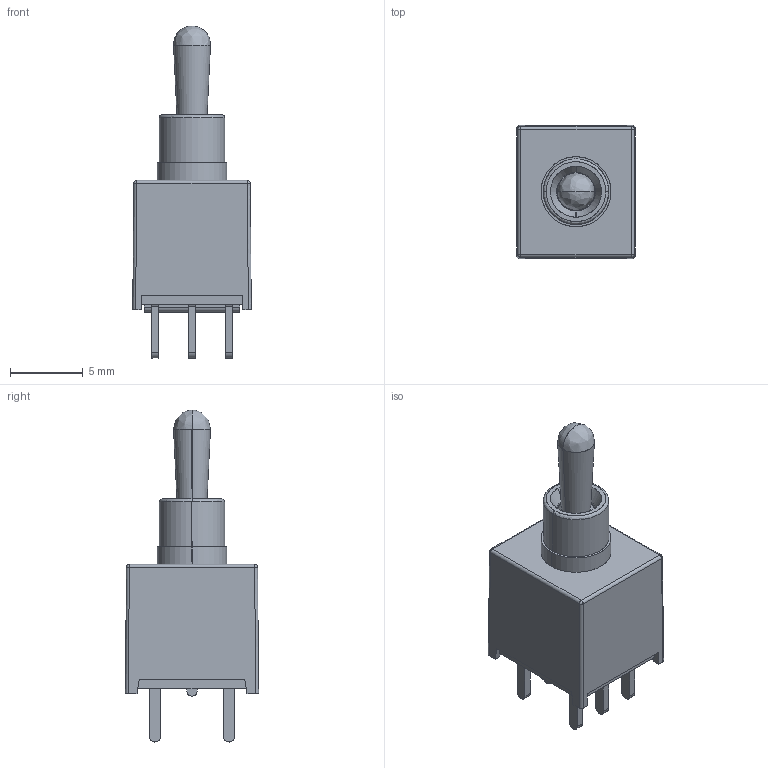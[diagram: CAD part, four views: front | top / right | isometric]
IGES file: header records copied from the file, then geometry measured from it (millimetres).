
Start section: SolidWorks IGES file using analytic representation for surfaces
Global section: file name: E:\阿財\工作圖檔\成品圖\2A系列\2AD3T2A2M2CES2.IGS; native system: SolidWorks 2012; preprocessor: SolidWorks 2012; author: user; date: 131021.174236; units: millimetre
Bounding box: 8.13 x 9.14 x 22.79 mm (x, y, z)
Surface area: 614.5 mm2 (no closed solid volume)
Topology: 0 solids, 0 shells, 139 faces, 978 edges, 970 vertices
Faces by surface type: bspline 83, revolution 56
